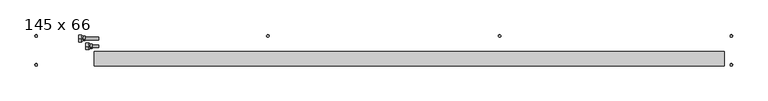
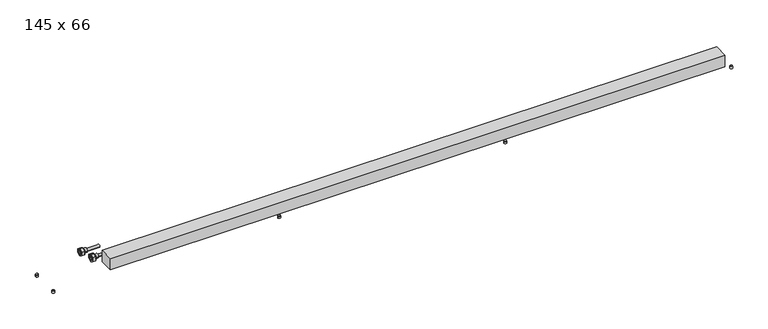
"""IFC4 building model written with IfcOpenShell, lengths in millimetres: proxy geometry, Mohlenhof_Внутрипольный конвектор_QSKM : 145 x 66."""

import ifcopenshell
import ifcopenshell.guid

model = None  # the IFC model being written
_history = None  # IfcOwnerHistory: only IFC2X3 demands one
_inside = {}  # id of a spatial element -> (the spatial element, [elements in it])
_under = {}  # id of a project, library or spatial element -> (it, [spatial elements below it])
_declared = {}  # id of a project -> (the project, [libraries it declares])
_typed = {}  # id of a type object -> (the type object, [elements of that type])
_made_of = {}  # id of a material, layer set ... -> (it, [elements and type objects made of it])


def new_model(schema):
    """Start an empty IFC model of exactly this schema.

    Asked for "IFC4X3", IfcOpenShell would pick the latest addendum, in which some entities
    have other attributes; the version numbers below select the first issue.
    IFC2X3 requires an IfcOwnerHistory on every rooted entity: one is made here for all.
    """
    global model, _history
    if schema == "IFC4X3":
        model = ifcopenshell.file(schema_version=(4, 3, 0, 0))
    else:
        model = ifcopenshell.file(schema=schema)
    _inside.clear()
    _under.clear()
    _declared.clear()
    _typed.clear()
    _made_of.clear()
    _history = None
    if model.schema == "IFC2X3":
        org = make("IfcOrganization", Name="unknown")
        user = make(
            "IfcPersonAndOrganization",
            ThePerson=make("IfcPerson", FamilyName="unknown"),
            TheOrganization=org,
        )
        app = make(
            "IfcApplication",
            ApplicationDeveloper=org,
            Version="unknown",
            ApplicationFullName="unknown",
            ApplicationIdentifier="unknown",
        )
        _history = make(
            "IfcOwnerHistory",
            OwningUser=user,
            OwningApplication=app,
            ChangeAction="ADDED",
            CreationDate=0,
        )
    return model


def make(cls, **values):
    """One entity of the class cls with the attributes given. An attribute that is None is left unset."""
    return model.create_entity(
        cls, **{name: value for name, value in values.items() if value is not None}
    )


def rooted(cls, **values):
    """An entity with a GlobalId (a new one), such as an element, a storey or a relation."""
    return make(cls, GlobalId=ifcopenshell.guid.new(), OwnerHistory=_history, **values)


def si_unit(unit_type, name, prefix=None):
    """IfcSIUnit, for example si_unit("LENGTHUNIT", "METRE", prefix="MILLI")."""
    return make("IfcSIUnit", UnitType=unit_type, Prefix=prefix, Name=name)


def assignment(units):
    """IfcUnitAssignment: the units of a project."""
    return None if units is None else make("IfcUnitAssignment", Units=units)


def point(xyz):
    """IfcCartesianPoint."""
    return None if xyz is None else make("IfcCartesianPoint", Coordinates=xyz)


def direction(xyz):
    """IfcDirection."""
    return None if xyz is None else make("IfcDirection", DirectionRatios=xyz)


def frame(location, z_axis=None, x_axis=None):
    """IfcAxis2Placement3D, a coordinate frame: its origin and axes. An axis left out is left unset."""
    return make(
        "IfcAxis2Placement3D",
        Location=point(location),
        Axis=direction(z_axis),
        RefDirection=direction(x_axis),
    )


def frame_2d(location, x_axis=None):
    """IfcAxis2Placement2D, a coordinate frame in the plane: its origin and x axis."""
    return make(
        "IfcAxis2Placement2D", Location=point(location), RefDirection=direction(x_axis)
    )


def origin():
    """The frame at (0, 0, 0) with its axes left unset."""
    return frame((0.0, 0.0, 0.0))


def place(relative_to, where):
    """IfcLocalPlacement: puts the frame where relative to a parent placement (None: the world)."""
    return make(
        "IfcLocalPlacement", PlacementRelTo=relative_to, RelativePlacement=where
    )


def context(
    kind, dimensions, precision=None, world=None, true_north=None, identifier=None
):
    """IfcGeometricRepresentationContext, for example the 3D "Model" context."""
    return make(
        "IfcGeometricRepresentationContext",
        ContextIdentifier=identifier,
        ContextType=kind,
        CoordinateSpaceDimension=dimensions,
        Precision=precision,
        WorldCoordinateSystem=world,
        TrueNorth=true_north,
    )


def project(units=None, contexts=None):
    """IfcProject with its units and contexts."""
    return rooted(
        "IfcProject",
        Name="project",
        RepresentationContexts=contexts,
        UnitsInContext=assignment(units),
    )


def spatial(cls, under=None, at=None, **own):
    """A site, building, storey or space (cls), placed at a placement, below another one or the project."""
    s = rooted(cls, ObjectPlacement=at, **own)
    if under is not None:
        _under.setdefault(under.id(), (under, []))[1].append(s)
    return s


def polyline(points):
    """IfcPolyline through the points."""
    return make("IfcPolyline", Points=[point(p) for p in points])


def circle_curve(where, radius):
    """IfcCircle in the frame where."""
    return make("IfcCircle", Position=where, Radius=radius)


def trimmed(basis, trim1, trim2, sense, master):
    """IfcTrimmedCurve: the piece of a basis curve between two trims."""
    return make(
        "IfcTrimmedCurve",
        BasisCurve=basis,
        Trim1=trim1,
        Trim2=trim2,
        SenseAgreement=sense,
        MasterRepresentation=master,
    )


def segment(curve, same_sense, transition):
    """IfcCompositeCurveSegment."""
    return make(
        "IfcCompositeCurveSegment",
        Transition=transition,
        SameSense=same_sense,
        ParentCurve=curve,
    )


def composite_curve(segments, self_intersect=None):
    """IfcCompositeCurve: segments joined end to end."""
    return make("IfcCompositeCurve", Segments=segments, SelfIntersect=self_intersect)


def outline(outer, holes=None, kind="AREA"):
    """IfcArbitraryClosedProfileDef: a profile drawn as a closed curve; with holes, ...WithVoids."""
    if holes is None:
        return make("IfcArbitraryClosedProfileDef", ProfileType=kind, OuterCurve=outer)
    return make(
        "IfcArbitraryProfileDefWithVoids",
        ProfileType=kind,
        OuterCurve=outer,
        InnerCurves=holes,
    )


def extrude(swept, where, along, depth):
    """IfcExtrudedAreaSolid: the profile swept, set in the frame where, extruded along a direction by depth."""
    return make(
        "IfcExtrudedAreaSolid",
        SweptArea=swept,
        Position=where,
        ExtrudedDirection=direction(along),
        Depth=depth,
    )


def shape(context_of_items, identifier, shape_type, items):
    """IfcShapeRepresentation: the items that make up one representation, for example the "Body"."""
    return make(
        "IfcShapeRepresentation",
        ContextOfItems=context_of_items,
        RepresentationIdentifier=identifier,
        RepresentationType=shape_type,
        Items=items,
    )


def source(mapping_origin, context_of_items, identifier, shape_type, items):
    """IfcRepresentationMap: a shape defined once, which mapped items show again and again."""
    return make(
        "IfcRepresentationMap",
        MappingOrigin=mapping_origin,
        MappedRepresentation=shape(context_of_items, identifier, shape_type, items),
    )


def transform(
    local_origin,
    x_axis=None,
    y_axis=None,
    z_axis=None,
    scale=None,
    scale2=None,
    scale3=None,
    uniform=True,
):
    """IfcCartesianTransformationOperator3D, or its non-uniform kind. x_axis, y_axis, z_axis: its Axis1, 2, 3."""
    if uniform:
        return make(
            "IfcCartesianTransformationOperator3D",
            Axis1=direction(x_axis),
            Axis2=direction(y_axis),
            LocalOrigin=point(local_origin),
            Scale=scale,
            Axis3=direction(z_axis),
        )
    return make(
        "IfcCartesianTransformationOperator3DnonUniform",
        Axis1=direction(x_axis),
        Axis2=direction(y_axis),
        LocalOrigin=point(local_origin),
        Scale=scale,
        Axis3=direction(z_axis),
        Scale2=scale2,
        Scale3=scale3,
    )


def mapped(mapping_source, mapping_target):
    """IfcMappedItem: shows the shape of a source again, moved by a transform."""
    return make(
        "IfcMappedItem", MappingSource=mapping_source, MappingTarget=mapping_target
    )


def made_of(thing, what):
    """Note that an element or type object is made of a material, layer set ...; save() writes the relation."""
    if what is not None:
        _made_of.setdefault(what.id(), (what, []))[1].append(thing)
    return thing


def element(
    cls,
    number,
    at=None,
    inside=None,
    cuts=None,
    type_object=None,
    material=None,
    context=None,
    identifier="Body",
    shape_type=None,
    held_by="IfcProductDefinitionShape",
    body=None,
    shapes=None,
    **own,
):
    """One element of the class cls, such as IfcWall. Its Tag is "e" and its number.

    at: its placement. inside: the storey or other place that contains it. cuts: it is an
    opening in that element (IfcRelVoidsElement). A single representation is given by context,
    identifier, shape_type and body (its items); several are given by shapes. held_by: the class
    of the entity that holds the representations. save() writes the other relations.
    """
    e = rooted(cls, Tag="e%d" % number, ObjectPlacement=at, **own)
    if body is not None:
        shapes = [shape(context, identifier, shape_type, body)]
    if shapes is not None:
        e.Representation = make(held_by, Representations=shapes)
    if inside is not None:
        _inside.setdefault(inside.id(), (inside, []))[1].append(e)
    if cuts is not None:
        rooted(
            "IfcRelVoidsElement", RelatingBuildingElement=cuts, RelatedOpeningElement=e
        )
    if type_object is not None:
        _typed.setdefault(type_object.id(), (type_object, []))[1].append(e)
    return made_of(e, material)


def aggregate(whole, parts):
    """IfcRelAggregates: a whole, such as a stair, and the parts it consists of."""
    return rooted("IfcRelAggregates", RelatingObject=whole, RelatedObjects=parts)


def save(model, path):
    """Write the relations noted so far, then the file.

    IfcRelAggregates (storeys below a building ...), IfcRelContainedInSpatialStructure (elements
    in a storey), IfcRelDefinesByType, IfcRelAssociatesMaterial and IfcRelDeclares: one each for
    every whole, place, type object, material and project.
    """
    for whole, parts in _under.values():
        aggregate(whole, parts)
    for where, things in _inside.values():
        rooted(
            "IfcRelContainedInSpatialStructure",
            RelatedElements=things,
            RelatingStructure=where,
        )
    for kind, things in _typed.values():
        rooted("IfcRelDefinesByType", RelatedObjects=things, RelatingType=kind)
    for what, things in _made_of.values():
        rooted("IfcRelAssociatesMaterial", RelatedObjects=things, RelatingMaterial=what)
    for by, libraries in _declared.values():
        rooted("IfcRelDeclares", RelatingContext=by, RelatedDefinitions=libraries)
    model.write(path)


def plane_surface(at):
    """IfcPlane: the flat surface through the origin of the frame at, square to its z axis."""
    return make("IfcPlane", Position=at)


def cylinder_surface(at, radius):
    """IfcCylindricalSurface: all points at the distance radius from the z axis of the frame at."""
    return make("IfcCylindricalSurface", Position=at, Radius=radius)


def revolved_surface(curve, axis_point, axis_direction):
    """IfcSurfaceOfRevolution: the curve turned about the line through axis_point along axis_direction."""
    return make(
        "IfcSurfaceOfRevolution",
        SweptCurve=make("IfcArbitraryOpenProfileDef", ProfileType="CURVE", Curve=curve),
        AxisPosition=make("IfcAxis1Placement", Location=point(axis_point), Axis=direction(axis_direction)),
    )


def advanced_brep(points, edges, surfaces, faces):
    """IfcAdvancedBrep: a solid bounded by faces that lie on surfaces and meet in shared edges.

    An edge is (start, end): straight between two places in points (the first is 0);
    or (start, end, curve); or (start, end, curve, False) where it runs against its curve.
    A face is (place in surfaces, loops), or (place, loops, False) where it looks against
    its surface's normal. A loop lists edges by number (the first is 1), with a minus sign
    where the edge is run from its end to its start. The first loop is the outer one.
    """
    corners = [point(p) for p in points]
    vertices = [make("IfcVertexPoint", VertexGeometry=c) for c in corners]
    made = []
    for start, end, *more in edges:
        made.append(
            make(
                "IfcEdgeCurve",
                EdgeStart=vertices[start],
                EdgeEnd=vertices[end],
                EdgeGeometry=more[0] if more else make("IfcPolyline", Points=[corners[start], corners[end]]),
                SameSense=more[1] if len(more) > 1 else True,
            )
        )
    hull = []
    for where, loops, *sense in faces:
        bounds = []
        for j, loop in enumerate(loops):
            ring = [make("IfcOrientedEdge", EdgeElement=made[abs(k) - 1], Orientation=k > 0) for k in loop]
            bounds.append(
                make(
                    "IfcFaceOuterBound" if j == 0 else "IfcFaceBound",
                    Bound=make("IfcEdgeLoop", EdgeList=ring),
                    Orientation=True,
                )
            )
        hull.append(make("IfcAdvancedFace", Bounds=bounds, FaceSurface=surfaces[where], SameSense=sense[0] if sense else True))
    return make("IfcAdvancedBrep", Outer=make("IfcClosedShell", CfsFaces=hull))


def proxy_145_x_66_d8024be9(model_context):
    return source(origin(), model_context, "Body", "SolidModel", [
        extrude(outline(composite_curve([segment(trimmed(circle_curve(frame_2d((-408.3333333, -223.5)), 4.5), [point((-412.8333333, -223.5))], [point((-403.8333333, -223.5))], False, "CARTESIAN"), True, "CONTINUOUS"), segment(trimmed(circle_curve(frame_2d((-408.3333333, -223.5)), 4.5), [point((-403.8333333, -223.5))], [point((-412.8333333, -223.5))], False, "CARTESIAN"), True, "CONTINUOUS")], self_intersect=False)), frame((0.0, 0.0, -79.0), z_axis=(0.0, 0.0, 1.0), x_axis=(1.0, 0.0, 0.0)), (0.0, 0.0, 1.0), 7.0),
        extrude(outline(composite_curve([segment(trimmed(circle_curve(frame_2d((-408.3333333, -223.5)), 4.0), [point((-412.3333333, -223.5))], [point((-404.3333333, -223.5))], False, "CARTESIAN"), True, "CONTINUOUS"), segment(trimmed(circle_curve(frame_2d((-408.3333333, -223.5)), 4.0), [point((-404.3333333, -223.5))], [point((-412.3333333, -223.5))], False, "CARTESIAN"), True, "CONTINUOUS")], self_intersect=False)), frame((0.0, 0.0, -72.0), z_axis=(0.0, 0.0, 1.0), x_axis=(1.0, 0.0, 0.0)), (0.0, 0.0, 1.0), 1.5),
        extrude(outline(composite_curve([segment(trimmed(circle_curve(frame_2d((408.3333333, -223.5)), 4.5), [point((403.8333333, -223.5))], [point((412.8333333, -223.5))], False, "CARTESIAN"), True, "CONTINUOUS"), segment(trimmed(circle_curve(frame_2d((408.3333333, -223.5)), 4.5), [point((412.8333333, -223.5))], [point((403.8333333, -223.5))], False, "CARTESIAN"), True, "CONTINUOUS")], self_intersect=False)), frame((0.0, 0.0, -79.0), z_axis=(0.0, 0.0, 1.0), x_axis=(1.0, 0.0, 0.0)), (0.0, 0.0, 1.0), 7.0),
        extrude(outline(composite_curve([segment(trimmed(circle_curve(frame_2d((408.3333333, -223.5)), 4.0), [point((404.3333333, -223.5))], [point((412.3333333, -223.5))], False, "CARTESIAN"), True, "CONTINUOUS"), segment(trimmed(circle_curve(frame_2d((408.3333333, -223.5)), 4.0), [point((412.3333333, -223.5))], [point((404.3333333, -223.5))], False, "CARTESIAN"), True, "CONTINUOUS")], self_intersect=False)), frame((0.0, 0.0, -72.0), z_axis=(0.0, 0.0, 1.0), x_axis=(1.0, 0.0, 0.0)), (0.0, 0.0, 1.0), 1.5),
        extrude(outline(composite_curve([segment(trimmed(circle_curve(frame_2d((-408.3333333, -121.5)), 4.5), [point((-412.8333333, -121.5))], [point((-403.8333333, -121.5))], False, "CARTESIAN"), True, "CONTINUOUS"), segment(trimmed(circle_curve(frame_2d((-408.3333333, -121.5)), 4.5), [point((-403.8333333, -121.5))], [point((-412.8333333, -121.5))], False, "CARTESIAN"), True, "CONTINUOUS")], self_intersect=False)), frame((0.0, 0.0, -79.0), z_axis=(0.0, 0.0, 1.0), x_axis=(1.0, 0.0, 0.0)), (0.0, 0.0, 1.0), 7.0),
        extrude(outline(composite_curve([segment(trimmed(circle_curve(frame_2d((-408.3333333, -121.5)), 4.0), [point((-412.3333333, -121.5))], [point((-404.3333333, -121.5))], False, "CARTESIAN"), True, "CONTINUOUS"), segment(trimmed(circle_curve(frame_2d((-408.3333333, -121.5)), 4.0), [point((-404.3333333, -121.5))], [point((-412.3333333, -121.5))], False, "CARTESIAN"), True, "CONTINUOUS")], self_intersect=False)), frame((0.0, 0.0, -72.0), z_axis=(0.0, 0.0, 1.0), x_axis=(1.0, 0.0, 0.0)), (0.0, 0.0, 1.0), 1.5),
        extrude(outline(composite_curve([segment(trimmed(circle_curve(frame_2d((408.3333333, -121.5)), 4.5), [point((403.8333333, -121.5))], [point((412.8333333, -121.5))], False, "CARTESIAN"), True, "CONTINUOUS"), segment(trimmed(circle_curve(frame_2d((408.3333333, -121.5)), 4.5), [point((412.8333333, -121.5))], [point((403.8333333, -121.5))], False, "CARTESIAN"), True, "CONTINUOUS")], self_intersect=False)), frame((0.0, 0.0, -79.0), z_axis=(0.0, 0.0, 1.0), x_axis=(1.0, 0.0, 0.0)), (0.0, 0.0, 1.0), 7.0),
        extrude(outline(composite_curve([segment(trimmed(circle_curve(frame_2d((408.3333333, -121.5)), 4.0), [point((404.3333333, -121.5))], [point((412.3333333, -121.5))], False, "CARTESIAN"), True, "CONTINUOUS"), segment(trimmed(circle_curve(frame_2d((408.3333333, -121.5)), 4.0), [point((412.3333333, -121.5))], [point((404.3333333, -121.5))], False, "CARTESIAN"), True, "CONTINUOUS")], self_intersect=False)), frame((0.0, 0.0, -72.0), z_axis=(0.0, 0.0, 1.0), x_axis=(1.0, 0.0, 0.0)), (0.0, 0.0, 1.0), 1.5),
        advanced_brep(
        [(-1040.0, -158.0, -47.5), (-1040.0, -146.0, -47.5), (-1040.0, -170.0, -47.5), (-1027.5, -165.5, -47.5), (-1027.5, -150.5, -47.5), (-1027.5, -158.0, -47.5), (-1035.0, -165.5, -47.5), (-1035.0, -150.5, -47.5)],
        [
            (0, 1),
            (1, 2, circle_curve(frame((-1040.0, -158.0, -47.5), z_axis=(-1.0, 0.0, 0.0), x_axis=(0.0, 1.0, 0.0)), 12.0)),
            (2, 0),
            (2, 1, circle_curve(frame((-1040.0, -158.0, -47.5), z_axis=(-1.0, 0.0, 0.0), x_axis=(0.0, 1.0, 0.0)), 12.0)),
            (3, 4, circle_curve(frame((-1027.5, -158.0, -47.5), z_axis=(1.0, 0.0, 0.0), x_axis=(0.0, 1.0, 0.0)), 7.5)),
            (4, 5),
            (5, 3),
            (4, 3, circle_curve(frame((-1027.5, -158.0, -47.5), z_axis=(1.0, 0.0, 0.0), x_axis=(0.0, 1.0, 0.0)), 7.5)),
            (6, 7, circle_curve(frame((-1035.0, -158.0, -47.5), z_axis=(1.0, 0.0, 0.0), x_axis=(0.0, 1.0, 0.0)), 7.5)),
            (7, 4),
            (3, 6),
            (7, 6, circle_curve(frame((-1035.0, -158.0, -47.5), z_axis=(1.0, 0.0, 0.0), x_axis=(0.0, 1.0, 0.0)), 7.5)),
            (1, 7),
            (6, 2),
        ],
        [
            plane_surface(frame((-1040.0, -158.0, -47.5), z_axis=(-1.0, 0.0, 0.0), x_axis=(0.0, 1.0, 0.0))),
            plane_surface(frame((-1027.5, -158.0, -47.5), z_axis=(1.0, 0.0, 0.0), x_axis=(0.0, 1.0, 0.0))),
            cylinder_surface(frame((-1040.0, -158.0, -47.5), z_axis=(-1.0, 0.0, 0.0), x_axis=(0.0, 1.0, 0.0)), 7.5),
            revolved_surface(polyline([(-1035.0, -150.5, -47.5), (-1040.0, -146.0, -47.5)]), (-1040.0, -158.0, -47.5), (-1.0, 0.0, 0.0)),
        ],
        [
            (0, [[1, 2, 3]]),
            (0, [[-3, 4, -1]]),
            (1, [[5, 6, 7]]),
            (1, [[8, -7, -6]]),
            (2, [[9, 10, -5, 11]]),
            (2, [[12, -11, -8, -10]]),
            (3, [[-2, 13, -9, 14]]),
            (3, [[-4, -14, -12, -13]]),
        ],
    ),
        extrude(outline(polyline([(-158.0, -33.6435935), (-146.0, -40.5717968), (-146.0, -54.4282032), (-158.0, -61.3564065), (-170.0, -54.4282032), (-170.0, -40.5717968), (-158.0, -33.6435935)]), holes=[composite_curve([segment(trimmed(circle_curve(frame_2d((-158.0, -47.5)), 8.5), [point((-149.5, -47.5))], [point((-166.5, -47.5))], True, "CARTESIAN"), True, "CONTINUOUS"), segment(trimmed(circle_curve(frame_2d((-158.0, -47.5)), 8.5), [point((-166.5, -47.5))], [point((-149.5, -47.5))], True, "CARTESIAN"), True, "CONTINUOUS")], self_intersect=False)]), frame((-1051.0, 0.0, 0.0), z_axis=(1.0, 0.0, 0.0), x_axis=(0.0, 1.0, 0.0)), (0.0, 0.0, 1.0), 11.0),
        advanced_brep(
        [(-1064.0, -130.0, -34.5), (-1064.0, -118.0, -34.5), (-1064.0, -142.0, -34.5), (-1051.5, -137.5, -34.5), (-1051.5, -122.5, -34.5), (-1051.5, -130.0, -34.5), (-1059.0, -137.5, -34.5), (-1059.0, -122.5, -34.5)],
        [
            (0, 1),
            (1, 2, circle_curve(frame((-1064.0, -130.0, -34.5), z_axis=(-1.0, 0.0, 0.0), x_axis=(0.0, 1.0, 0.0)), 12.0)),
            (2, 0),
            (2, 1, circle_curve(frame((-1064.0, -130.0, -34.5), z_axis=(-1.0, 0.0, 0.0), x_axis=(0.0, 1.0, 0.0)), 12.0)),
            (3, 4, circle_curve(frame((-1051.5, -130.0, -34.5), z_axis=(1.0, 0.0, 0.0), x_axis=(0.0, 1.0, 0.0)), 7.5)),
            (4, 5),
            (5, 3),
            (4, 3, circle_curve(frame((-1051.5, -130.0, -34.5), z_axis=(1.0, 0.0, 0.0), x_axis=(0.0, 1.0, 0.0)), 7.5)),
            (6, 7, circle_curve(frame((-1059.0, -130.0, -34.5), z_axis=(1.0, 0.0, 0.0), x_axis=(0.0, 1.0, 0.0)), 7.5)),
            (7, 4),
            (3, 6),
            (7, 6, circle_curve(frame((-1059.0, -130.0, -34.5), z_axis=(1.0, 0.0, 0.0), x_axis=(0.0, 1.0, 0.0)), 7.5)),
            (1, 7),
            (6, 2),
        ],
        [
            plane_surface(frame((-1064.0, -130.0, -34.5), z_axis=(-1.0, 0.0, 0.0), x_axis=(0.0, 1.0, 0.0))),
            plane_surface(frame((-1051.5, -130.0, -34.5), z_axis=(1.0, 0.0, 0.0), x_axis=(0.0, 1.0, 0.0))),
            cylinder_surface(frame((-1064.0, -130.0, -34.5), z_axis=(-1.0, 0.0, 0.0), x_axis=(0.0, 1.0, 0.0)), 7.5),
            revolved_surface(polyline([(-1059.0, -122.5, -34.5), (-1064.0, -118.0, -34.5)]), (-1064.0, -130.0, -34.5), (-1.0, 0.0, 0.0)),
        ],
        [
            (0, [[1, 2, 3]]),
            (0, [[-3, 4, -1]]),
            (1, [[5, 6, 7]]),
            (1, [[8, -7, -6]]),
            (2, [[9, 10, -5, 11]]),
            (2, [[12, -11, -8, -10]]),
            (3, [[-2, 13, -9, 14]]),
            (3, [[-4, -14, -12, -13]]),
        ],
    ),
        extrude(outline(polyline([(-130.0, -20.6435935), (-118.0, -27.5717968), (-118.0, -41.4282032), (-130.0, -48.3564065), (-142.0, -41.4282032), (-142.0, -27.5717968), (-130.0, -20.6435935)]), holes=[composite_curve([segment(trimmed(circle_curve(frame_2d((-130.0, -34.5)), 8.5), [point((-121.5, -34.5))], [point((-138.5, -34.5))], True, "CARTESIAN"), True, "CONTINUOUS"), segment(trimmed(circle_curve(frame_2d((-130.0, -34.5)), 8.5), [point((-138.5, -34.5))], [point((-121.5, -34.5))], True, "CARTESIAN"), True, "CONTINUOUS")], self_intersect=False)]), frame((-1075.0, 0.0, 0.0), z_axis=(1.0, 0.0, 0.0), x_axis=(0.0, 1.0, 0.0)), (0.0, 0.0, 1.0), 11.0),
        extrude(outline(composite_curve([segment(trimmed(circle_curve(frame_2d((-1225.0, -223.5)), 4.5), [point((-1229.5, -223.5))], [point((-1220.5, -223.5))], False, "CARTESIAN"), True, "CONTINUOUS"), segment(trimmed(circle_curve(frame_2d((-1225.0, -223.5)), 4.5), [point((-1220.5, -223.5))], [point((-1229.5, -223.5))], False, "CARTESIAN"), True, "CONTINUOUS")], self_intersect=False)), frame((0.0, 0.0, -79.0), z_axis=(0.0, 0.0, 1.0), x_axis=(1.0, 0.0, 0.0)), (0.0, 0.0, 1.0), 7.0),
        extrude(outline(composite_curve([segment(trimmed(circle_curve(frame_2d((-1225.0, -223.5)), 4.0), [point((-1229.0, -223.5))], [point((-1221.0, -223.5))], False, "CARTESIAN"), True, "CONTINUOUS"), segment(trimmed(circle_curve(frame_2d((-1225.0, -223.5)), 4.0), [point((-1221.0, -223.5))], [point((-1229.0, -223.5))], False, "CARTESIAN"), True, "CONTINUOUS")], self_intersect=False)), frame((0.0, 0.0, -72.0), z_axis=(0.0, 0.0, 1.0), x_axis=(1.0, 0.0, 0.0)), (0.0, 0.0, 1.0), 1.5),
        extrude(outline(composite_curve([segment(trimmed(circle_curve(frame_2d((-1225.0, -121.5)), 4.5), [point((-1229.5, -121.5))], [point((-1220.5, -121.5))], False, "CARTESIAN"), True, "CONTINUOUS"), segment(trimmed(circle_curve(frame_2d((-1225.0, -121.5)), 4.5), [point((-1220.5, -121.5))], [point((-1229.5, -121.5))], False, "CARTESIAN"), True, "CONTINUOUS")], self_intersect=False)), frame((0.0, 0.0, -79.0), z_axis=(0.0, 0.0, 1.0), x_axis=(1.0, 0.0, 0.0)), (0.0, 0.0, 1.0), 7.0),
        extrude(outline(composite_curve([segment(trimmed(circle_curve(frame_2d((-1225.0, -121.5)), 4.0), [point((-1229.0, -121.5))], [point((-1221.0, -121.5))], False, "CARTESIAN"), True, "CONTINUOUS"), segment(trimmed(circle_curve(frame_2d((-1225.0, -121.5)), 4.0), [point((-1221.0, -121.5))], [point((-1229.0, -121.5))], False, "CARTESIAN"), True, "CONTINUOUS")], self_intersect=False)), frame((0.0, 0.0, -72.0), z_axis=(0.0, 0.0, 1.0), x_axis=(1.0, 0.0, 0.0)), (0.0, 0.0, 1.0), 1.5),
        extrude(outline(composite_curve([segment(trimmed(circle_curve(frame_2d((1225.0, -223.5)), 4.5), [point((1220.5, -223.5))], [point((1229.5, -223.5))], False, "CARTESIAN"), True, "CONTINUOUS"), segment(trimmed(circle_curve(frame_2d((1225.0, -223.5)), 4.5), [point((1229.5, -223.5))], [point((1220.5, -223.5))], False, "CARTESIAN"), True, "CONTINUOUS")], self_intersect=False)), frame((0.0, 0.0, -79.0), z_axis=(0.0, 0.0, 1.0), x_axis=(1.0, 0.0, 0.0)), (0.0, 0.0, 1.0), 7.0),
        extrude(outline(composite_curve([segment(trimmed(circle_curve(frame_2d((1225.0, -223.5)), 4.0), [point((1221.0, -223.5))], [point((1229.0, -223.5))], False, "CARTESIAN"), True, "CONTINUOUS"), segment(trimmed(circle_curve(frame_2d((1225.0, -223.5)), 4.0), [point((1229.0, -223.5))], [point((1221.0, -223.5))], False, "CARTESIAN"), True, "CONTINUOUS")], self_intersect=False)), frame((0.0, 0.0, -72.0), z_axis=(0.0, 0.0, 1.0), x_axis=(1.0, 0.0, 0.0)), (0.0, 0.0, 1.0), 1.5),
        extrude(outline(composite_curve([segment(trimmed(circle_curve(frame_2d((1225.0, -121.5)), 4.5), [point((1220.5, -121.5))], [point((1229.5, -121.5))], False, "CARTESIAN"), True, "CONTINUOUS"), segment(trimmed(circle_curve(frame_2d((1225.0, -121.5)), 4.5), [point((1229.5, -121.5))], [point((1220.5, -121.5))], False, "CARTESIAN"), True, "CONTINUOUS")], self_intersect=False)), frame((0.0, 0.0, -79.0), z_axis=(0.0, 0.0, 1.0), x_axis=(1.0, 0.0, 0.0)), (0.0, 0.0, 1.0), 7.0),
        extrude(outline(composite_curve([segment(trimmed(circle_curve(frame_2d((1225.0, -121.5)), 4.0), [point((1221.0, -121.5))], [point((1229.0, -121.5))], False, "CARTESIAN"), True, "CONTINUOUS"), segment(trimmed(circle_curve(frame_2d((1225.0, -121.5)), 4.0), [point((1229.0, -121.5))], [point((1221.0, -121.5))], False, "CARTESIAN"), True, "CONTINUOUS")], self_intersect=False)), frame((0.0, 0.0, -72.0), z_axis=(0.0, 0.0, 1.0), x_axis=(1.0, 0.0, 0.0)), (0.0, 0.0, 1.0), 1.5),
        extrude(outline(polyline([(1200.0, -175.87), (1200.0, -227.18), (-1020.0, -227.18), (-1020.0, -175.87), (1200.0, -175.87)])), frame((0.0, 0.0, -62.5), z_axis=(0.0, 0.0, 1.0), x_axis=(1.0, 0.0, 0.0)), (0.0, 0.0, 1.0), 43.62),
        extrude(outline(composite_curve([segment(trimmed(circle_curve(frame_2d((-158.0, -47.5)), 5.0), [point((-163.0, -47.5))], [point((-153.0, -47.5))], False, "CARTESIAN"), True, "CONTINUOUS"), segment(trimmed(circle_curve(frame_2d((-158.0, -47.5)), 5.0), [point((-153.0, -47.5))], [point((-163.0, -47.5))], False, "CARTESIAN"), True, "CONTINUOUS")], self_intersect=False)), frame((-1051.0, 0.0, 0.0), z_axis=(1.0, 0.0, 0.0), x_axis=(0.0, 1.0, 0.0)), (0.0, 0.0, 1.0), 46.0),
        extrude(outline(composite_curve([segment(trimmed(circle_curve(frame_2d((-130.0, -34.5)), 5.0), [point((-135.0, -34.5))], [point((-125.0, -34.5))], False, "CARTESIAN"), True, "CONTINUOUS"), segment(trimmed(circle_curve(frame_2d((-130.0, -34.5)), 5.0), [point((-125.0, -34.5))], [point((-135.0, -34.5))], False, "CARTESIAN"), True, "CONTINUOUS")], self_intersect=False)), frame((-1075.0, 0.0, 0.0), z_axis=(1.0, 0.0, 0.0), x_axis=(0.0, 1.0, 0.0)), (0.0, 0.0, 1.0), 70.0),
    ])


if __name__ == "__main__":
    model = new_model("IFC4")
    model_context = context("Model", 3, world=origin())
    ifc_project = project(units=[si_unit("LENGTHUNIT", "METRE", prefix="MILLI")], contexts=[model_context])
    site = spatial("IfcSite", under=ifc_project)
    building = spatial("IfcBuilding", under=site)
    placement = place(None, origin())
    proxy_145_x_66_shape = proxy_145_x_66_d8024be9(model_context)
    element("IfcBuildingElementProxy", 1, Name="Mohlenhof_Внутрипольный конвектор_QSKM : 145 x 66", ObjectType="Mohlenhof_Внутрипольный конвектор_QSKM : 145 x 66", at=placement, inside=building, context=model_context, shape_type="MappedRepresentation", body=[
        mapped(proxy_145_x_66_shape, transform((0.0, 0.0, 0.0), x_axis=(1.0, 0.0, 0.0), y_axis=(0.0, 1.0, 0.0), z_axis=(0.0, 0.0, 1.0))),
    ])
    save(model, "model.ifc")
